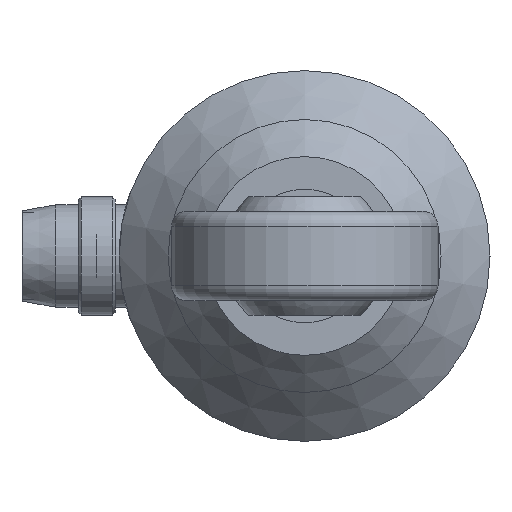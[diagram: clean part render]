
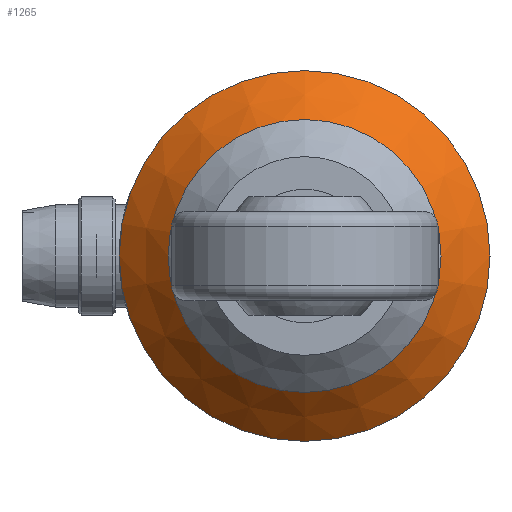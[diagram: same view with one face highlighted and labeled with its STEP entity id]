
A CAD part, left-side view. The second image highlights one B-rep face of the part: STEP entity #1265.
In plain terms, the highlighted conical face has half-angle 45 degrees and reference radius 12.5 mm.
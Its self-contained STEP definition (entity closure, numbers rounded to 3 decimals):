
#106=CONICAL_SURFACE('',#1659,12.5,0.785);
#238=ORIENTED_EDGE('',*,*,#521,.T.);
#239=ORIENTED_EDGE('',*,*,#520,.F.);
#520=EDGE_CURVE('',#666,#666,#780,.T.);
#521=EDGE_CURVE('',#667,#667,#781,.T.);
#666=VERTEX_POINT('',#2326);
#667=VERTEX_POINT('',#2329);
#780=CIRCLE('',#1658,12.5);
#781=CIRCLE('',#1660,9.2);
#879=EDGE_LOOP('',(#238));
#880=EDGE_LOOP('',(#239));
#1055=FACE_BOUND('',#879,.T.);
#1056=FACE_BOUND('',#880,.T.);
#1265=ADVANCED_FACE('',(#1055,#1056),#106,.T.);
#1658=AXIS2_PLACEMENT_3D('',#2325,#1891,#1892);
#1659=AXIS2_PLACEMENT_3D('',#2327,#1893,#1894);
#1660=AXIS2_PLACEMENT_3D('',#2328,#1895,#1896);
#1891=DIRECTION('',(1.,0.,0.));
#1892=DIRECTION('',(0.,0.,-1.));
#1893=DIRECTION('',(1.,0.,0.));
#1894=DIRECTION('',(0.,0.,-1.));
#1895=DIRECTION('',(1.,0.,0.));
#1896=DIRECTION('',(0.,0.,-1.));
#2325=CARTESIAN_POINT('',(13.4,0.,0.));
#2326=CARTESIAN_POINT('',(13.4,0.,-12.5));
#2327=CARTESIAN_POINT('',(13.4,0.,0.));
#2328=CARTESIAN_POINT('',(10.1,0.,0.));
#2329=CARTESIAN_POINT('',(10.1,0.,-9.2));
